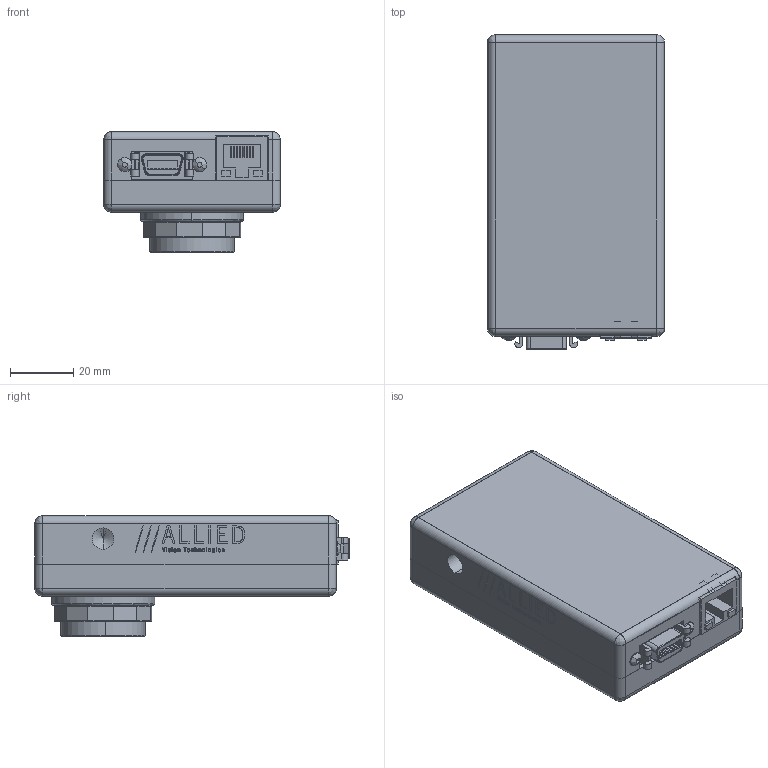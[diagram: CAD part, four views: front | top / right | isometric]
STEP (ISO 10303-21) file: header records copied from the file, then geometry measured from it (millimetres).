
FILE_DESCRIPTION (( 'STEP AP214' ), '1' );
FILE_NAME ('GS1380-P.STEP', '2013-07-31T20:39:48', ( '' ), ( '' ), 'SwSTEP 2.0', 'SolidWorks 2013', '' );
FILE_SCHEMA (( 'AUTOMOTIVE_DESIGN' ));
Length unit declared in the file: millimetre
Products named in the file (22): 140008-washer spring lock #4; 140056-SCREW SOCKET CAP HEX M2.5X10 BLACK; 140059-EMI GASKET FOR GS; 140055-WASHER SPRING LOCK M2.5 BLACK; 110089A-GS FRONT; 140057-SCREW BUTTON SKT CAP M2.5X10 SS; 740097-GS1380-P LABEL PRINT; GS1380-P; 110090B-GS BACK RA_Default Logo; 740084B-GS SERIES LABEL; 02-2206B-GB1380-P; 220053-SONY ICX285AL; Sony ICX285 BODY; Sony ICX285 WINDOW; 140027-SCREW BUTTON M3x6 SS; 110031A-B EC-CCD LOCKING RING; 110094A-GB CCD GASKET; 200103B-GB1380-650-PT-RA; 260039-3M 10214-55G3PC; 260036-HALO HFJ11-1G16E-L12RL; 110003AC-CV CMOUNT RING; 110078A-GB MOUNT
Assembly tree (30 placements, depth 4):
  GS1380-P
    110089A-GS FRONT
    140056-SCREW SOCKET CAP HEX M2.5X10 BLACK  x4
    02-2206B-GB1380-P
      140008-washer spring lock #4  x2
      110078A-GB MOUNT
      110003AC-CV CMOUNT RING
      200103B-GB1380-650-PT-RA
        260036-HALO HFJ11-1G16E-L12RL
        260039-3M 10214-55G3PC
      110094A-GB CCD GASKET
      110031A-B EC-CCD LOCKING RING
      140027-SCREW BUTTON M3x6 SS  x2
      220053-SONY ICX285AL
        Sony ICX285 WINDOW
        Sony ICX285 BODY
    740084B-GS SERIES LABEL
    110090B-GS BACK RA_Default Logo
    740097-GS1380-P LABEL PRINT
    140057-SCREW BUTTON SKT CAP M2.5X10 SS  x2
    140055-WASHER SPRING LOCK M2.5 BLACK  x4
    140059-EMI GASKET FOR GS
Bounding box: 55.88 x 99.31 x 38.14 mm (x, y, z)
Volume: 57916.1 mm3; surface area: 74381.4 mm2
Topology: 86 solids, 86 shells, 3537 faces, 9164 edges, 5972 vertices
Faces by surface type: plane 1995, bspline 877, cylinder 467, cone 198
Entity records: 174577 total; most frequent: CARTESIAN_POINT 56922, ORIENTED_EDGE 17696, DIRECTION 13289, EDGE_CURVE 8848, VECTOR 6059, LINE 6059, VERTEX_POINT 5803, EDGE_LOOP 3751
